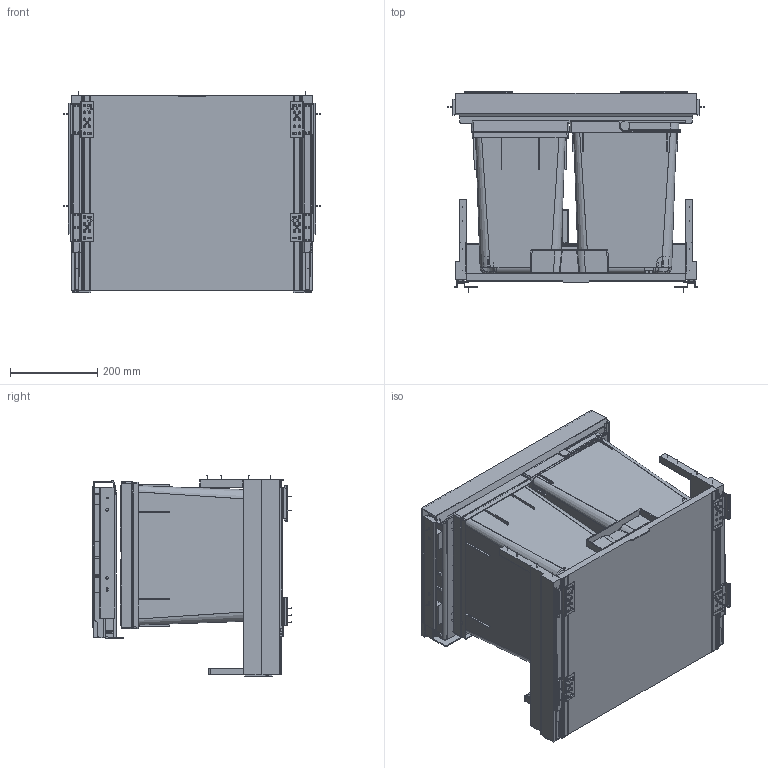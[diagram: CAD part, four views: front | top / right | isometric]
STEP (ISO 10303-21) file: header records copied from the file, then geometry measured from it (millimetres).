
FILE_DESCRIPTION((''),'2;1');
FILE_NAME('X60_M17_PREMIUM_PRO_LIGHT','2024-05-22T16:34:43',('fba'),(''),'CREO PARAMETRIC BY PTC INC, 2022024','CREO PARAMETRIC BY PTC INC, 2022024','');
FILE_SCHEMA(('AUTOMOTIVE_DESIGN { 1 0 10303 214 1 1 1 1 }'));
Products named in the file (16): KOMPLETTAUSZUG_R60_LIGHT; 12246_LIGHT; 12248_LIGHT; 12300_LIGHT; 12302_LIGHT; 12447_LIGHT; 12303_LIGHT; 12258_LIGHT; 12259_LIGHT; 12274_LIGHT; 12278_LIGHT; 12282_LIGHT; 12483_LIGHT; 12283_LIGHT; 12264_LIGHT; X60_M17_PREMIUM_PRO_LIGHT
Assembly tree (18 placements, depth 3):
  X60_M17_PREMIUM_PRO_LIGHT
    KOMPLETTAUSZUG_R60_LIGHT
    12246_LIGHT
    12248_LIGHT
    12447_LIGHT  x2
      12300_LIGHT
      12302_LIGHT
    12303_LIGHT  x2
    12258_LIGHT
    12259_LIGHT
    12274_LIGHT
    12278_LIGHT
    12282_LIGHT
    12483_LIGHT
    12283_LIGHT  x2
    12264_LIGHT
Bounding box: 588 x 458 x 461.2 mm (x, y, z)
Volume: 10018389.7 mm3; surface area: 4599724.3 mm2
Topology: 34 solids, 34 shells, 4066 faces, 10789 edges, 6915 vertices
Faces by surface type: plane 2069, cylinder 1125, bspline 384, cone 166, torus 152, extrusion 104, sphere 66
Entity records: 141756 total; most frequent: CARTESIAN_POINT 43824, ORIENTED_EDGE 18664, DIRECTION 16734, EDGE_CURVE 9332, VERTEX_POINT 6013, VECTOR 5932, LINE 5828, AXIS2_PLACEMENT_3D 5401
